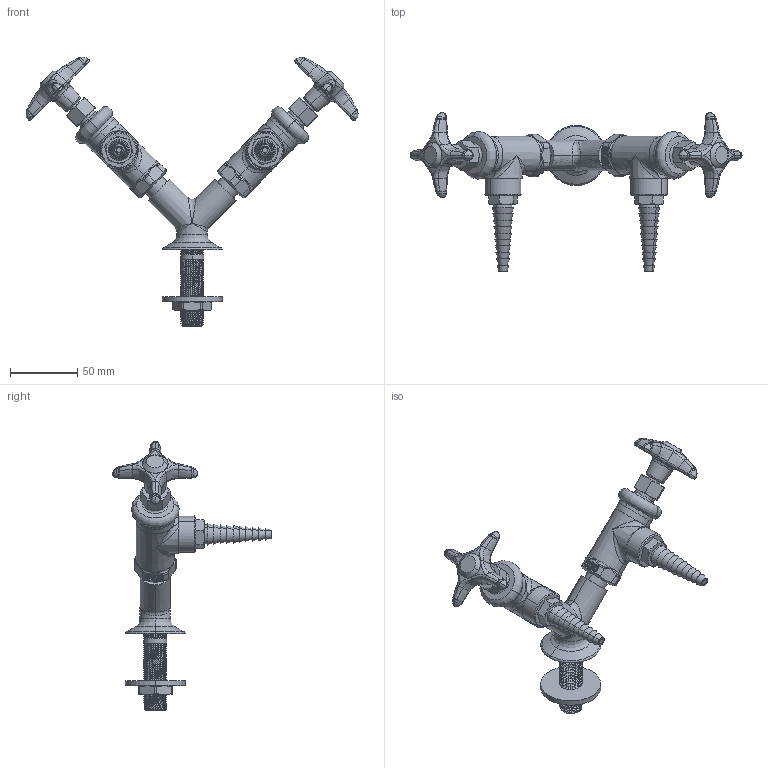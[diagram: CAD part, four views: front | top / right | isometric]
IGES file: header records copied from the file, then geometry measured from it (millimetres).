
Start section:  PTC IGES file: LGF3-A11M-65.igs
Global section: file name: LGF3-A11M-65.igs; native system: Creo Parametric by PTC Inc.; preprocessor: 2014500; author: usch_engrender; organization: Unknown; date: 20160113.161134; units: inch
Bounding box: 246.24 x 117.97 x 200.05 mm (x, y, z)
Volume: 169696.8 mm3; surface area: 72847 mm2
Topology: 1 solids, 11 shells, 1363 faces, 3177 edges, 1884 vertices
Faces by surface type: bspline 751, revolution 612
